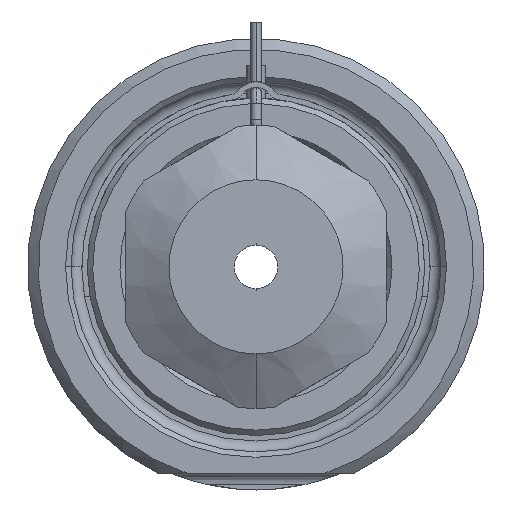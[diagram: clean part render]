
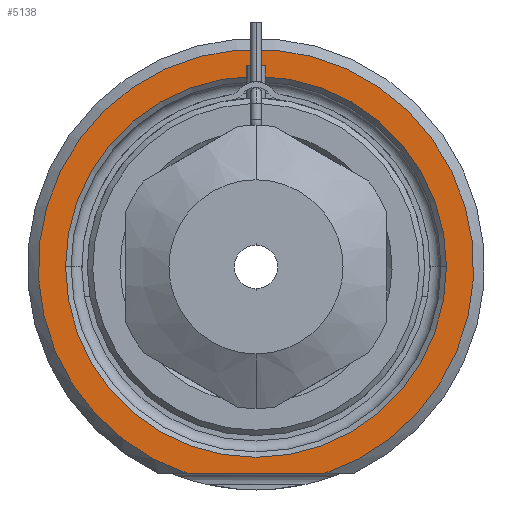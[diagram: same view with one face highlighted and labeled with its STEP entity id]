
A CAD part, front view. The second image highlights one B-rep face of the part: STEP entity #5138.
In plain terms, the highlighted planar face has unit normal (0, -1, 0).
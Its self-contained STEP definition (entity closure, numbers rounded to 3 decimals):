
#1614=DIRECTION('',(1.,0.,0.));
#1615=VECTOR('',#1614,12.49);
#1616=CARTESIAN_POINT('',(-6.245,0.,-19.));
#1617=LINE('',#1616,#1615);
#1618=CARTESIAN_POINT('',(0.,0.,0.));
#1619=DIRECTION('',(0.,1.,0.));
#1620=DIRECTION('',(-1.,0.,0.));
#1621=AXIS2_PLACEMENT_3D('',#1618,#1619,#1620);
#1623=CARTESIAN_POINT('',(0.,0.,0.));
#1624=DIRECTION('',(0.,1.,0.));
#1625=DIRECTION('',(1.,0.,0.));
#1626=AXIS2_PLACEMENT_3D('',#1623,#1624,#1625);
#1732=CARTESIAN_POINT('',(0.,0.,0.));
#1733=DIRECTION('',(0.,-1.,0.));
#1734=DIRECTION('',(0.312,0.,-0.95));
#1735=AXIS2_PLACEMENT_3D('',#1732,#1733,#1734);
#2739=CARTESIAN_POINT('',(-17.5,0.,0.));
#2740=CARTESIAN_POINT('',(17.5,0.,0.));
#2741=VERTEX_POINT('',#2739);
#2742=VERTEX_POINT('',#2740);
#2797=CARTESIAN_POINT('',(-6.245,0.,-19.));
#2798=CARTESIAN_POINT('',(6.245,0.,-19.));
#2799=VERTEX_POINT('',#2797);
#2800=VERTEX_POINT('',#2798);
#5122=CARTESIAN_POINT('',(0.,0.,0.));
#5123=DIRECTION('',(0.,-1.,0.));
#5124=DIRECTION('',(1.,0.,0.));
#5125=AXIS2_PLACEMENT_3D('',#5122,#5123,#5124);
#5126=PLANE('',#5125);
#5128=ORIENTED_EDGE('',*,*,#5127,.F.);
#5130=ORIENTED_EDGE('',*,*,#5129,.F.);
#5131=EDGE_LOOP('',(#5128,#5130));
#5132=FACE_OUTER_BOUND('',#5131,.F.);
#5133=ORIENTED_EDGE('',*,*,#5112,.F.);
#5135=ORIENTED_EDGE('',*,*,#5134,.F.);
#5136=EDGE_LOOP('',(#5133,#5135));
#5137=FACE_BOUND('',#5136,.F.);
#5138=ADVANCED_FACE('',(#5132,#5137),#5126,.T.);
#1622=CIRCLE('',#1621,17.5);
#1627=CIRCLE('',#1626,17.5);
#1736=CIRCLE('',#1735,20.);
#5112=EDGE_CURVE('',#2741,#2742,#1622,.T.);
#5127=EDGE_CURVE('',#2799,#2800,#1617,.T.);
#5129=EDGE_CURVE('',#2800,#2799,#1736,.T.);
#5134=EDGE_CURVE('',#2742,#2741,#1627,.T.);
